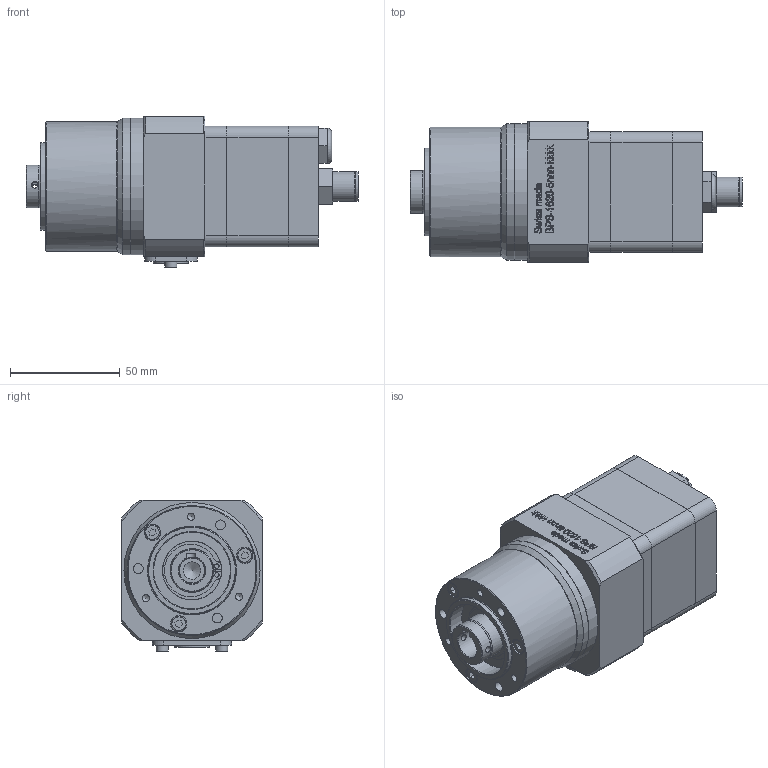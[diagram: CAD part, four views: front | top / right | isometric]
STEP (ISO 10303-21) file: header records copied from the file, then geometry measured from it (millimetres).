
FILE_DESCRIPTION(/* description */ (''),/* implementation_level */ '2;1');
FILE_NAME(/* name */ 'G:\02 CAD Dateien\02 - CAD Schrittmotoren BPS\01 - Standart Produkte\BPS 1620-23\Verkaufsunterlagen\STEP ab JULI 2017\500-16-354 Schrittmotor BPS-1620-MX-0027.stp',/* time_stamp */ '2017-12-19T16:25:11+01:00',/* author */ ('RSc'),/* organization */ (''),/* preprocessor_version */ 'ST-DEVELOPER v16.1',/* originating_system */ 'Autodesk Inventor 2016',/* authorisation */ '');
FILE_SCHEMA (('AUTOMOTIVE_DESIGN { 1 0 10303 214 3 1 1 }'));
Length unit declared in the file: millimetre
Products named in the file (1): Bauteil5
Bounding box: 151.2 x 64 x 69 mm (x, y, z)
Volume: 383621.3 mm3; surface area: 52813.6 mm2
Topology: 12 solids, 33 shells, 830 faces, 2085 edges, 1378 vertices
Faces by surface type: plane 423, bspline 213, cylinder 119, torus 38, cone 26, sphere 11
Full cylindrical faces by diameter (mm): 2 x2, 3 x7, 3.242 x3, 3.3 x6, 4 x3, 4.5 x7, 5.5 x4, 7 x3, 7.5 x3, 8 x10, 8.566 x4, 10.5 x1, 11 x1, 12.6 x1, 13.6 x2, 16 x2, 19 x1, 19.5 x1, 20 x2, 25.325 x1, 26.657 x1, 26.857 x1, 35 x1, 35.343 x1, 36.675 x1, 38.675 x1, 40 x1, 42 x1, 59 x1, 62 x2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
Entity records: 26127 total; most frequent: CARTESIAN_POINT 7330, ORIENTED_EDGE 3868, DIRECTION 3002, EDGE_CURVE 1910, VERTEX_POINT 1318, LINE 1102, VECTOR 1102, EDGE_LOOP 1054
